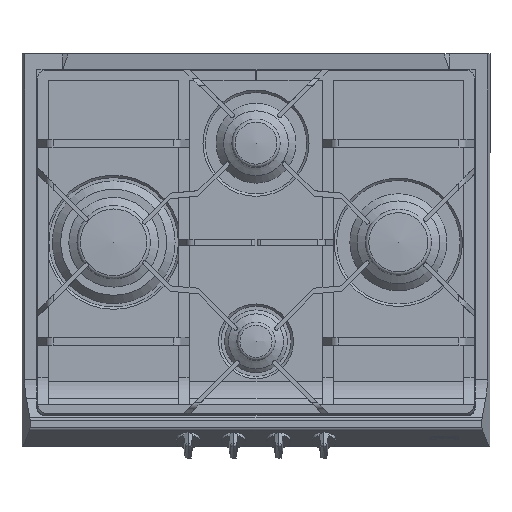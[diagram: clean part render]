
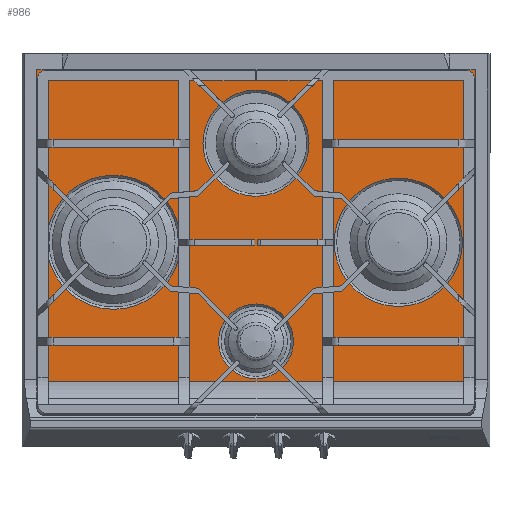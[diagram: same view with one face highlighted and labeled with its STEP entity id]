
A CAD part, top view. The second image highlights one B-rep face of the part: STEP entity #986.
In plain terms, the highlighted planar face has unit normal (0, 0, 1).
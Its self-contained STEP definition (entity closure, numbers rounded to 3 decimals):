
#746=FACE_BOUND('',#2438,.T.);
#747=FACE_BOUND('',#2439,.T.);
#748=FACE_BOUND('',#2440,.T.);
#749=FACE_BOUND('',#2441,.T.);
#750=FACE_BOUND('',#2442,.T.);
#986=ADVANCED_FACE('',(#746,#747,#748,#749,#750),#1476,.F.);
#1476=PLANE('',#9939);
#2438=EDGE_LOOP('',(#3811));
#2439=EDGE_LOOP('',(#3812));
#2440=EDGE_LOOP('',(#3813));
#2441=EDGE_LOOP('',(#3814));
#2442=EDGE_LOOP('',(#3815,#3816,#3817,#3818));
#2962=CIRCLE('',#9935,82.25);
#2963=CIRCLE('',#9936,48.);
#2964=CIRCLE('',#9937,68.);
#2965=CIRCLE('',#9938,86.);
#3811=ORIENTED_EDGE('',*,*,#6990,.F.);
#3812=ORIENTED_EDGE('',*,*,#6991,.F.);
#3813=ORIENTED_EDGE('',*,*,#6992,.F.);
#3814=ORIENTED_EDGE('',*,*,#6993,.F.);
#3815=ORIENTED_EDGE('',*,*,#6994,.F.);
#3816=ORIENTED_EDGE('',*,*,#6989,.F.);
#3817=ORIENTED_EDGE('',*,*,#6995,.F.);
#3818=ORIENTED_EDGE('',*,*,#6996,.T.);
#6020=VERTEX_POINT('',#14706);
#6021=VERTEX_POINT('',#14708);
#6022=VERTEX_POINT('',#14712);
#6023=VERTEX_POINT('',#14714);
#6024=VERTEX_POINT('',#14716);
#6025=VERTEX_POINT('',#14718);
#6026=VERTEX_POINT('',#14720);
#6027=VERTEX_POINT('',#14722);
#6989=EDGE_CURVE('',#6021,#6020,#8108,.T.);
#6990=EDGE_CURVE('',#6022,#6022,#2962,.T.);
#6991=EDGE_CURVE('',#6023,#6023,#2963,.T.);
#6992=EDGE_CURVE('',#6024,#6024,#2964,.T.);
#6993=EDGE_CURVE('',#6025,#6025,#2965,.T.);
#6994=EDGE_CURVE('',#6020,#6026,#8109,.T.);
#6995=EDGE_CURVE('',#6027,#6021,#8110,.T.);
#6996=EDGE_CURVE('',#6027,#6026,#8111,.T.);
#8108=LINE('',#14709,#8965);
#8109=LINE('',#14719,#8966);
#8110=LINE('',#14721,#8967);
#8111=LINE('',#14723,#8968);
#8965=VECTOR('',#11206,1.);
#8966=VECTOR('',#11217,1.);
#8967=VECTOR('',#11218,1.);
#8968=VECTOR('',#11219,1.);
#9935=AXIS2_PLACEMENT_3D('',#14711,#11209,#11210);
#9936=AXIS2_PLACEMENT_3D('',#14713,#11211,#11212);
#9937=AXIS2_PLACEMENT_3D('',#14715,#11213,#11214);
#9938=AXIS2_PLACEMENT_3D('',#14717,#11215,#11216);
#9939=AXIS2_PLACEMENT_3D('',#14724,#11220,#11221);
#11206=DIRECTION('',(-1.,0.,0.));
#11209=DIRECTION('',(0.,0.,1.));
#11210=DIRECTION('',(0.,1.,0.));
#11211=DIRECTION('',(0.,0.,1.));
#11212=DIRECTION('',(0.,1.,0.));
#11213=DIRECTION('',(0.,0.,1.));
#11214=DIRECTION('',(0.,1.,0.));
#11215=DIRECTION('',(0.,0.,1.));
#11216=DIRECTION('',(0.,1.,0.));
#11217=DIRECTION('',(0.,1.,0.));
#11218=DIRECTION('',(0.,-1.,0.));
#11219=DIRECTION('',(-1.,0.,0.));
#11220=DIRECTION('',(0.,0.,-1.));
#11221=DIRECTION('',(0.,1.,0.));
#14706=CARTESIAN_POINT('',(-616.823,-242.856,-4.364));
#14708=CARTESIAN_POINT('',(-54.823,-242.856,-4.364));
#14709=CARTESIAN_POINT('',(-335.823,-242.856,-4.364));
#14711=CARTESIAN_POINT('',(-153.323,-64.5,-4.364));
#14712=CARTESIAN_POINT('',(-153.323,17.75,-4.364));
#14713=CARTESIAN_POINT('',(-335.823,-191.5,-4.364));
#14714=CARTESIAN_POINT('',(-335.823,-143.5,-4.364));
#14715=CARTESIAN_POINT('',(-335.823,62.5,-4.364));
#14716=CARTESIAN_POINT('',(-335.823,130.5,-4.364));
#14717=CARTESIAN_POINT('',(-518.323,-64.5,-4.364));
#14718=CARTESIAN_POINT('',(-518.323,21.5,-4.364));
#14719=CARTESIAN_POINT('',(-616.823,-242.856,-4.364));
#14720=CARTESIAN_POINT('',(-616.823,157.,-4.364));
#14721=CARTESIAN_POINT('',(-54.823,-242.856,-4.364));
#14722=CARTESIAN_POINT('',(-54.823,157.,-4.364));
#14723=CARTESIAN_POINT('',(-335.823,157.,-4.364));
#14724=CARTESIAN_POINT('',(-335.823,-242.856,-4.364));
